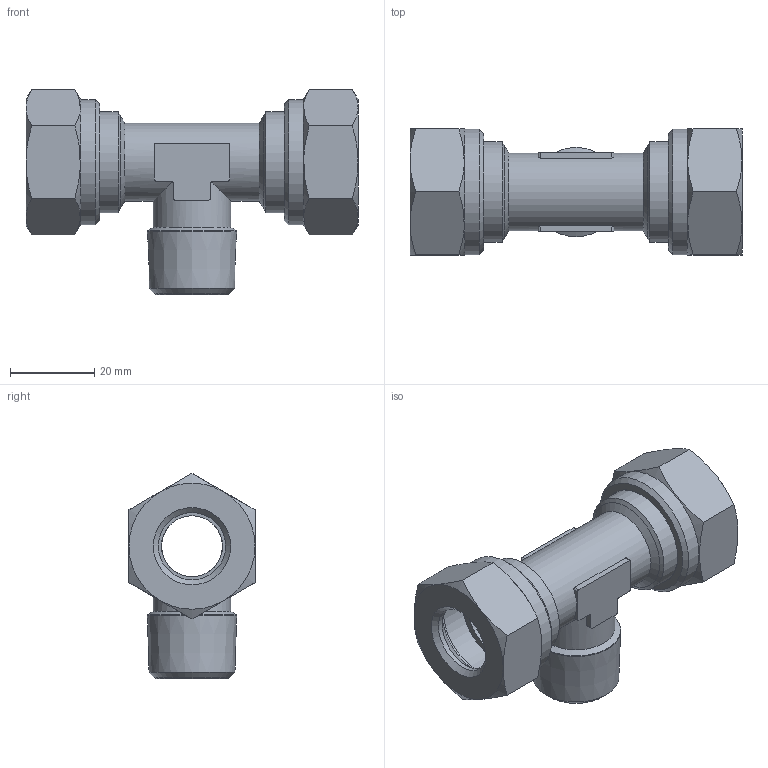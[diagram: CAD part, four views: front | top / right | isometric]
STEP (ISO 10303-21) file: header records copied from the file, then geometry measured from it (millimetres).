
FILE_DESCRIPTION(('Bauteilbeschreibung','HiCAD-Model','HiCAD-STEP-TRANSLATION','Bauteilbeschreibung'),'2;1');
FILE_NAME('B:/ABGLEICH/ZEICHNUNGEN/STEP FÜR INTERNET/STEP/207/92213_207_16_1-2.STP','2012-01-31T14:07:00+00:00',('Konstrukteur'),('Konstrukteur Firma GmbH'),' HiCAD neXt 2008, Step 3.1.1401.2J ','HiCAD neXt 2008','confidential');
FILE_SCHEMA(('AUTOMOTIVE_DESIGN { 1 2 10303 214 0 1 1 1 }'));
Length unit declared in the file: millimetre
Products named in the file (12): A2213_207_16_1_2; A2213; A22130; R 1_2; DIN 13_M24X1_5; DIN0130M24X105; A6808; A68080; DIN0130M24X1050; A68081; A68082; DIN0130M24X1051
Assembly tree (11 placements, depth 3):
  A2213_207_16_1_2
    A2213
    A22130
      R 1_2
      DIN 13_M24X1_5
      DIN0130M24X105
    A6808
    A68080
      DIN0130M24X1050
    A68081
    A68082
      DIN0130M24X1051
Bounding box: 79 x 30 x 48.82 mm (x, y, z)
Volume: 26204.5 mm3; surface area: 25170.1 mm2
Topology: 8 solids, 8 shells, 133 faces, 315 edges, 198 vertices
Faces by surface type: plane 45, cylinder 44, cone 44
Full cylindrical faces by diameter (mm): 14 x1, 14.5 x1, 15 x1, 16 x4, 18.5 x2, 21.267 x1, 22.16 x8, 24 x6, 29.8 x2
Entity records: 8553 total; most frequent: CARTESIAN_POINT 4495, DIRECTION 592, ORIENTED_EDGE 478, AXIS2_PLACEMENT_3D 261, EDGE_CURVE 239, COLOUR_RGB 220, PRESENTATION_STYLE_ASSIGNMENT 220, CURVE_STYLE 212
